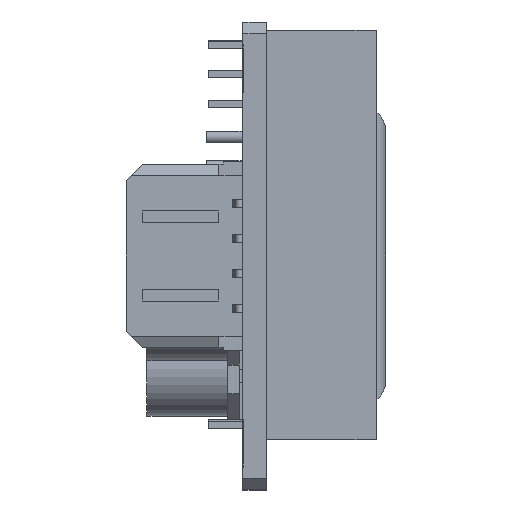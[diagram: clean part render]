
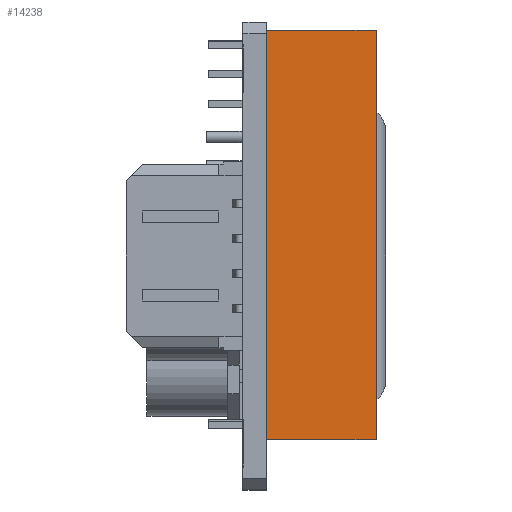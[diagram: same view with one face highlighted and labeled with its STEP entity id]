
A CAD part, left-side view. The second image highlights one B-rep face of the part: STEP entity #14238.
In plain terms, the highlighted planar face has unit normal (-1, 0, 0).
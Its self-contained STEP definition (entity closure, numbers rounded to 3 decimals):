
#132 = DIRECTION ( 'NONE',  ( 0., 0., 1. ) ) ;
#133 = CARTESIAN_POINT ( 'NONE',  ( -35.8, -9.39, 19.3 ) ) ;
#134 = LINE ( 'NONE', #133, #21527 ) ;
#135 = DIRECTION ( 'NONE',  ( 0., 1., 0. ) ) ;
#136 = CARTESIAN_POINT ( 'NONE',  ( -35.8, -52.99, -15.7 ) ) ;
#137 = LINE ( 'NONE', #136, #21498 ) ;
#153 = DIRECTION ( 'NONE',  ( 0., 1., 0. ) ) ;
#157 = LINE ( 'NONE', #162, #21525 ) ;
#162 = CARTESIAN_POINT ( 'NONE',  ( -35.8, -52.99, 19.3 ) ) ;
#254 = EDGE_CURVE ( 'NONE', #11532, #9649, #4364, .T. ) ;
#348 = EDGE_CURVE ( 'NONE', #11760, #11532, #157, .T. ) ;
#354 = EDGE_CURVE ( 'NONE', #13358, #9649, #137, .T. ) ;
#355 = EDGE_CURVE ( 'NONE', #13358, #11760, #134, .T. ) ;
#3821 = CARTESIAN_POINT ( 'NONE',  ( -35.8, 0., -15.7 ) ) ;
#4340 = DIRECTION ( 'NONE',  ( 0., 0., -1. ) ) ;
#4362 = CARTESIAN_POINT ( 'NONE',  ( -35.8, 0., 19.3 ) ) ;
#4364 = LINE ( 'NONE', #4362, #21484 ) ;
#4522 = EDGE_LOOP ( 'NONE', ( #22783, #22782, #22781, #22780 ) ) ;
#6652 = CARTESIAN_POINT ( 'NONE',  ( -35.8, -52.99, 19.3 ) ) ;
#6660 = FACE_OUTER_BOUND ( 'NONE', #4522, .T. ) ;
#6661 = PLANE ( 'NONE',  #20086 ) ;
#6663 = DIRECTION ( 'NONE',  ( 1., 0., 0. ) ) ;
#6664 = DIRECTION ( 'NONE',  ( 0., 0., -1. ) ) ;
#9649 = VERTEX_POINT ( 'NONE', #3821 ) ;
#11532 = VERTEX_POINT ( 'NONE', #14838 ) ;
#11760 = VERTEX_POINT ( 'NONE', #15066 ) ;
#13358 = VERTEX_POINT ( 'NONE', #15522 ) ;
#14238 = ADVANCED_FACE ( 'NONE', ( #6660 ), #6661, .F. ) ;
#14838 = CARTESIAN_POINT ( 'NONE',  ( -35.8, 0., 19.3 ) ) ;
#15066 = CARTESIAN_POINT ( 'NONE',  ( -35.8, -9.39, 19.3 ) ) ;
#15522 = CARTESIAN_POINT ( 'NONE',  ( -35.8, -9.39, -15.7 ) ) ;
#20086 = AXIS2_PLACEMENT_3D ( 'NONE', #6652, #6663, #6664 ) ;
#21484 = VECTOR ( 'NONE', #4340, 1000. ) ;
#21498 = VECTOR ( 'NONE', #135, 1000. ) ;
#21525 = VECTOR ( 'NONE', #153, 1000. ) ;
#21527 = VECTOR ( 'NONE', #132, 1000. ) ;
#22780 = ORIENTED_EDGE ( 'NONE', *, *, #348, .T. ) ;
#22781 = ORIENTED_EDGE ( 'NONE', *, *, #355, .T. ) ;
#22782 = ORIENTED_EDGE ( 'NONE', *, *, #354, .F. ) ;
#22783 = ORIENTED_EDGE ( 'NONE', *, *, #254, .T. ) ;
